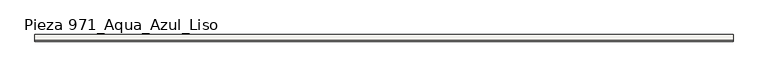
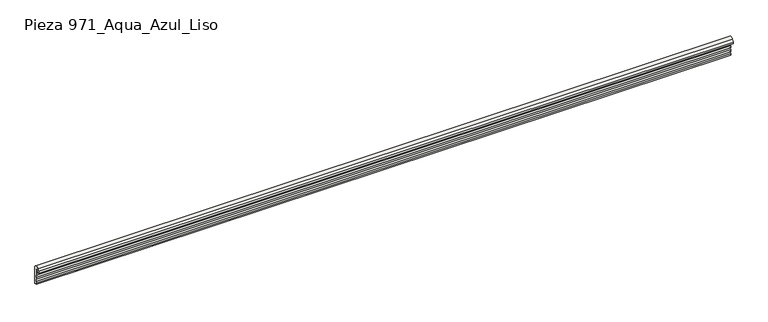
"""IFC4 building model written with IfcOpenShell, lengths in millimetres: slab geometry, ROSA GRES_971 : Pieza 971_Aqua_Azul_Liso."""

from ifc_helpers import new_model, si_unit, point, frame, frame_2d, origin, place, context, project, spatial, polyline, circle_curve, trimmed, segment, composite_curve, outline, extrude, source, transform, mapped, element, save


def pieza_971_aqua_azul_liso_a5592165(model_context):
    return source(origin(), model_context, "Body", "SweptSolid", [
        extrude(outline(composite_curve([segment(trimmed(circle_curve(frame_2d((-16.8529233, 144.6319512)), 16.9196478), [point((-31.1851409, 153.6242825))], [point((0.0, 146.1331033))], False, "CARTESIAN"), True, "CONTINUOUS"), segment(polyline([(0.0, 146.1331033), (0.0, 44.0250913)]), True, "CONTINUOUS"), segment(trimmed(circle_curve(frame_2d((-2.68, 44.0250913)), 2.68), [point((0.0, 44.0250913))], [point((-2.68, 41.3450913))], False, "CARTESIAN"), True, "CONTINUOUS"), segment(polyline([(-2.68, 41.3450913), (-15.0062809, 41.3450913), (-15.0062809, 49.6275439)]), True, "CONTINUOUS"), segment(trimmed(circle_curve(frame_2d((-21.3959123, 56.5905141)), 9.450415), [point((-15.0062809, 49.6275439))], [point((-14.9614723, 63.5120982))], True, "CARTESIAN"), True, "CONTINUOUS"), segment(polyline([(-14.9614723, 63.5120982), (-14.9614723, 74.8171516)]), True, "CONTINUOUS"), segment(trimmed(circle_curve(frame_2d((-21.3511036, 81.7801218)), 9.450415), [point((-14.9614723, 74.8171516))], [point((-14.9166636, 88.7017059))], True, "CARTESIAN"), True, "CONTINUOUS"), segment(polyline([(-14.9166636, 88.7017059), (-14.9166636, 100.0067593)]), True, "CONTINUOUS"), segment(trimmed(circle_curve(frame_2d((-21.3613471, 107.0507801)), 9.5473648), [point((-14.9166636, 100.0067593))], [point((-14.3481673, 113.5290116))], True, "CARTESIAN"), True, "CONTINUOUS"), segment(polyline([(-14.3481673, 113.5290116), (-14.3481673, 136.0931579)]), True, "CONTINUOUS"), segment(trimmed(circle_curve(frame_2d((-18.761148, 135.3324983)), 4.4780578), [point((-14.3481673, 136.0931579))], [point((-22.7114874, 137.4414839))], True, "CARTESIAN"), True, "CONTINUOUS"), segment(polyline([(-22.7114874, 137.4414839), (-28.5599154, 128.1510212), (-39.9975962, 128.1510212), (-39.9975962, 139.9882747), (-31.1851409, 153.6242825)]), True, "CONTINUOUS")], self_intersect=False)), frame((0.0, 0.0, 0.0), z_axis=(1.0, 0.0, 0.0), x_axis=(0.0, 1.0, 0.0)), (0.0, 0.0, 1.0), 4219.9734114),
    ])


if __name__ == "__main__":
    model = new_model("IFC4")
    model_context = context("Model", 3, world=origin())
    ifc_project = project(units=[si_unit("LENGTHUNIT", "METRE", prefix="MILLI")], contexts=[model_context])
    site = spatial("IfcSite", under=ifc_project)
    building = spatial("IfcBuilding", under=site)
    placement = place(None, origin())
    pieza_971_aqua_azul_liso_shape = pieza_971_aqua_azul_liso_a5592165(model_context)
    element("IfcSlab", 1, ObjectType="ROSA GRES_971 : Pieza 971_Aqua_Azul_Liso", at=placement, inside=building, context=model_context, shape_type="MappedRepresentation", body=[
        mapped(pieza_971_aqua_azul_liso_shape, transform((0.0, 0.0, 0.0), x_axis=(1.0, 0.0, 0.0), y_axis=(0.0, 1.0, 0.0), z_axis=(0.0, 0.0, 1.0))),
    ])
    save(model, "model.ifc")
